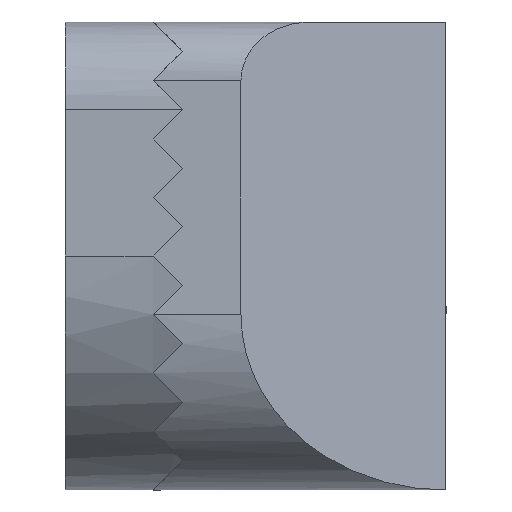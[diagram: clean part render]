
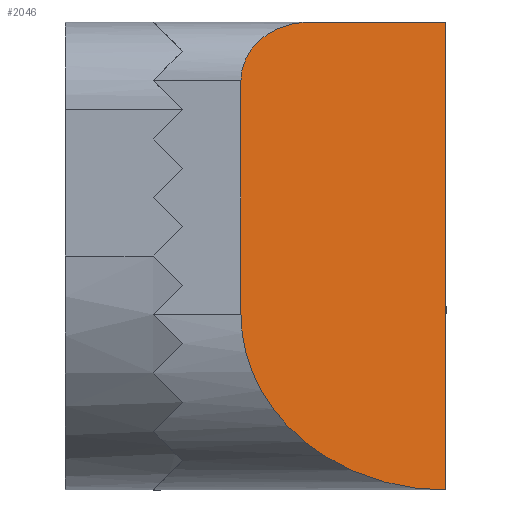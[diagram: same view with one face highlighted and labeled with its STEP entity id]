
A CAD part, left-side view. The second image highlights one B-rep face of the part: STEP entity #2046.
In plain terms, the highlighted planar face has unit normal (-0.759, -0.651, 0).
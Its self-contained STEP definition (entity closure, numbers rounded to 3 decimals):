
#113 = VERTEX_POINT ( 'NONE', #297 ) ;
#238 = CARTESIAN_POINT ( 'NONE',  ( -7., -4.167, 4. ) ) ;
#297 = CARTESIAN_POINT ( 'NONE',  ( -5., -6.5, -4. ) ) ;
#301 = CARTESIAN_POINT ( 'NONE',  ( -8., -3., 4. ) ) ;
#351 = DIRECTION ( 'NONE',  ( 0.651, -0.759, 0. ) ) ;
#423 = VERTEX_POINT ( 'NONE', #2349 ) ;
#516 = CARTESIAN_POINT ( 'NONE',  ( -6.757, -4.45, -4. ) ) ;
#542 = PLANE ( 'NONE',  #3460 ) ;
#622 = FACE_OUTER_BOUND ( 'NONE', #1762, .T. ) ;
#791 = CARTESIAN_POINT ( 'NONE',  ( -8., -3., -2.757 ) ) ;
#813 = CARTESIAN_POINT ( 'NONE',  ( -8., -3., 3. ) ) ;
#876 = EDGE_CURVE ( 'NONE', #423, #1090, #1166, .T. ) ;
#974 = EDGE_CURVE ( 'NONE', #1947, #113, #1006, .T. ) ;
#1006 = LINE ( 'NONE', #3140, #3107 ) ;
#1067 = CARTESIAN_POINT ( 'NONE',  ( -7., -4.167, 4. ) ) ;
#1069 = DIRECTION ( 'NONE',  ( 0., 0., -1. ) ) ;
#1090 = VERTEX_POINT ( 'NONE', #1352 ) ;
#1166 = LINE ( 'NONE', #2695, #3437 ) ;
#1198 =( BOUNDED_CURVE ( )  B_SPLINE_CURVE ( 3, ( #3215, #791, #516, #2415 ),
 .UNSPECIFIED., .F., .T. ) 
 B_SPLINE_CURVE_WITH_KNOTS ( ( 4, 4 ),
 ( 0., 1.571 ),
 .UNSPECIFIED. ) 
 CURVE ( )  GEOMETRIC_REPRESENTATION_ITEM ( )  RATIONAL_B_SPLINE_CURVE ( ( 1., 0.805, 0.805, 1. ) ) 
 REPRESENTATION_ITEM ( '' )  );
#1204 = ORIENTED_EDGE ( 'NONE', *, *, #3439, .F. ) ;
#1352 = CARTESIAN_POINT ( 'NONE',  ( -8., -3., -1. ) ) ;
#1564 =( BOUNDED_CURVE ( )  B_SPLINE_CURVE ( 3, ( #1067, #1603, #2438, #813 ),
 .UNSPECIFIED., .F., .F. ) 
 B_SPLINE_CURVE_WITH_KNOTS ( ( 4, 4 ),
 ( 1.571, 3.142 ),
 .UNSPECIFIED. ) 
 CURVE ( )  GEOMETRIC_REPRESENTATION_ITEM ( )  RATIONAL_B_SPLINE_CURVE ( ( 1., 0.805, 0.805, 1. ) ) 
 REPRESENTATION_ITEM ( '' )  );
#1603 = CARTESIAN_POINT ( 'NONE',  ( -7.586, -3.483, 4. ) ) ;
#1620 = DIRECTION ( 'NONE',  ( 0.759, 0.651, 0. ) ) ;
#1762 = EDGE_LOOP ( 'NONE', ( #3413, #3491, #2467, #1204, #3027 ) ) ;
#1880 = VECTOR ( 'NONE', #351, 1000. ) ;
#1932 = DIRECTION ( 'NONE',  ( -0.651, 0.759, 0. ) ) ;
#1947 = VERTEX_POINT ( 'NONE', #3474 ) ;
#1972 = CARTESIAN_POINT ( 'NONE',  ( -8., -3., 4. ) ) ;
#2046 = ADVANCED_FACE ( 'NONE', ( #622 ), #542, .F. ) ;
#2183 = VERTEX_POINT ( 'NONE', #238 ) ;
#2344 = DIRECTION ( 'NONE',  ( 0., 0., -1. ) ) ;
#2349 = CARTESIAN_POINT ( 'NONE',  ( -8., -3., 3. ) ) ;
#2396 = EDGE_CURVE ( 'NONE', #2183, #423, #1564, .T. ) ;
#2415 = CARTESIAN_POINT ( 'NONE',  ( -5., -6.5, -4. ) ) ;
#2438 = CARTESIAN_POINT ( 'NONE',  ( -8., -3., 3.586 ) ) ;
#2467 = ORIENTED_EDGE ( 'NONE', *, *, #974, .F. ) ;
#2695 = CARTESIAN_POINT ( 'NONE',  ( -8., -3., 4. ) ) ;
#2741 = LINE ( 'NONE', #1972, #1880 ) ;
#3027 = ORIENTED_EDGE ( 'NONE', *, *, #2396, .T. ) ;
#3107 = VECTOR ( 'NONE', #2344, 1000. ) ;
#3125 = EDGE_CURVE ( 'NONE', #1090, #113, #1198, .T. ) ;
#3140 = CARTESIAN_POINT ( 'NONE',  ( -5., -6.5, 4. ) ) ;
#3215 = CARTESIAN_POINT ( 'NONE',  ( -8., -3., -1. ) ) ;
#3413 = ORIENTED_EDGE ( 'NONE', *, *, #876, .T. ) ;
#3437 = VECTOR ( 'NONE', #1069, 1000. ) ;
#3439 = EDGE_CURVE ( 'NONE', #2183, #1947, #2741, .T. ) ;
#3460 = AXIS2_PLACEMENT_3D ( 'NONE', #301, #1620, #1932 ) ;
#3474 = CARTESIAN_POINT ( 'NONE',  ( -5., -6.5, 4. ) ) ;
#3491 = ORIENTED_EDGE ( 'NONE', *, *, #3125, .T. ) ;
